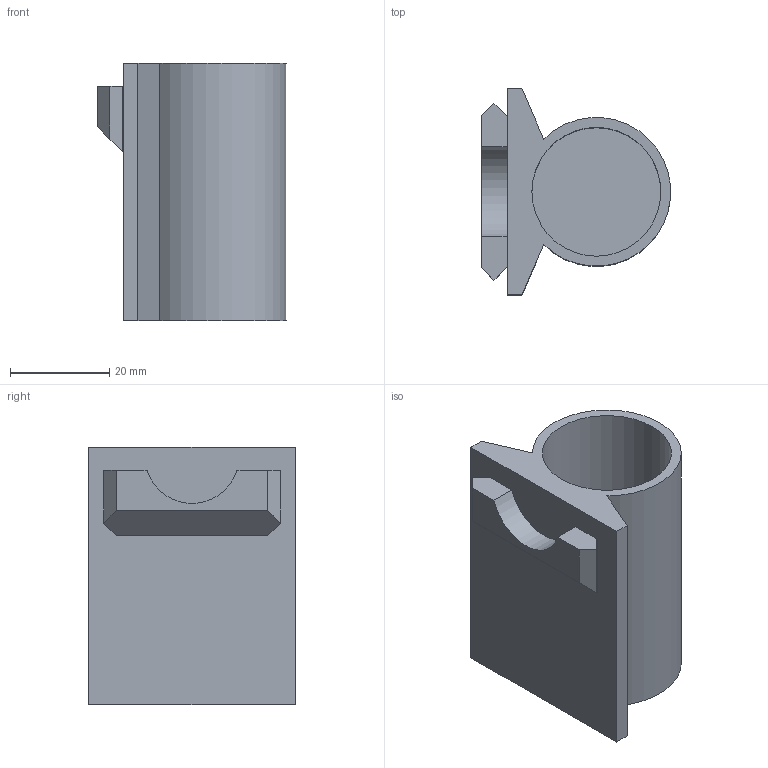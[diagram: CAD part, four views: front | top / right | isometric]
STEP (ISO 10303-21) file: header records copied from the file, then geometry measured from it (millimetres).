
FILE_DESCRIPTION(/* description */ ('','CAx-IF Rec.Pracs.---Representation and Presentation of Product Manufacturing Information (PMI)---4.0---2014-10-13'),/* implementation_level */ '2;1');
FILE_NAME(/* name */ 'Goews Single 1x Hanging Cup 26mm D x 50mm H.step',/* time_stamp */ '2024-12-16T19:15:22-05:00',/* author */ (''),/* organization */ (''),/* preprocessor_version */ 'ST-DEVELOPER v20',/* originating_system */ 'Autodesk Translation Framework v13.20.0.188',/* authorisation */ '');
FILE_SCHEMA (('AP242_MANAGED_MODEL_BASED_3D_ENGINEERING_MIM_LF { 1 0 10303 442 1 1 4 }'));
Length unit declared in the file: millimetre
Products named in the file (1): Goews Single 1x Hanging Cup parametric
Bounding box: 38.09 x 41.6 x 52 mm (x, y, z)
Volume: 21903.1 mm3; surface area: 13641 mm2
Topology: 1 solids, 1 shells, 22 faces, 52 edges, 34 vertices
Faces by surface type: plane 19, cylinder 3
Full cylindrical faces by diameter (mm): 26 x1
Entity records: 659 total; most frequent: CARTESIAN_POINT 109, ORIENTED_EDGE 104, DIRECTION 104, EDGE_CURVE 52, LINE 46, VECTOR 46, VERTEX_POINT 34, AXIS2_PLACEMENT_3D 29
